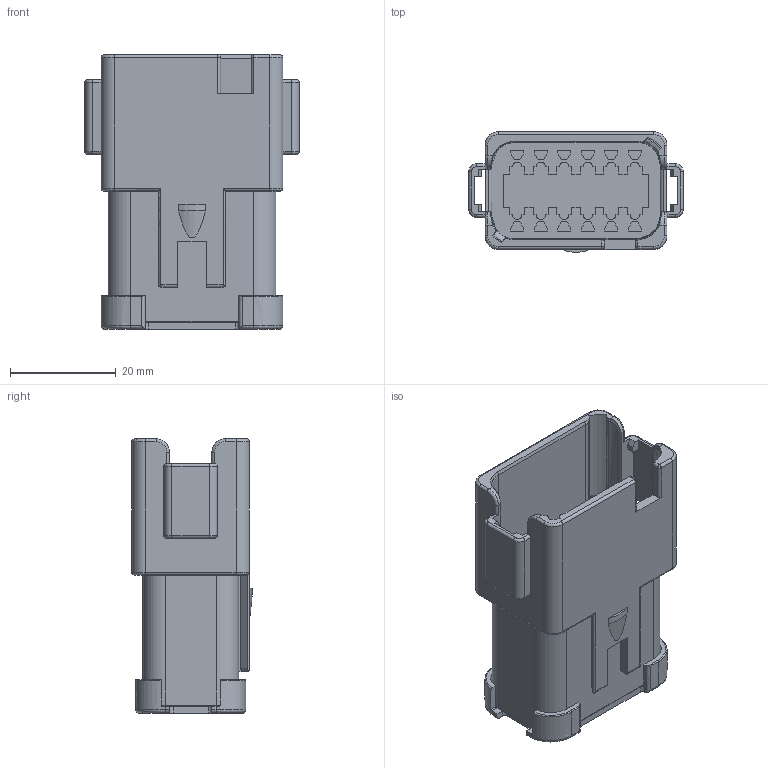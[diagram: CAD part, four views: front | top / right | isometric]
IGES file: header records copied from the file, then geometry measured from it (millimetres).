
Start section:  PTC IGES file: c-dt04-12pc-be02-99-3d.igs
Global section: file name: c-dt04-12pc-be02-99-3d.igs; native system: Pro/ENGINEER by Parametric Technology Corporation; preprocessor: 2011490; author: workeradm; organization: Unknown; units: millimetre
Bounding box: 40.56 x 22.76 x 51.89 mm (x, y, z)
Surface area: 11304 mm2 (no closed solid volume)
Topology: 0 solids, 0 shells, 671 faces, 3518 edges, 3518 vertices
Faces by surface type: bspline 417, revolution 254
